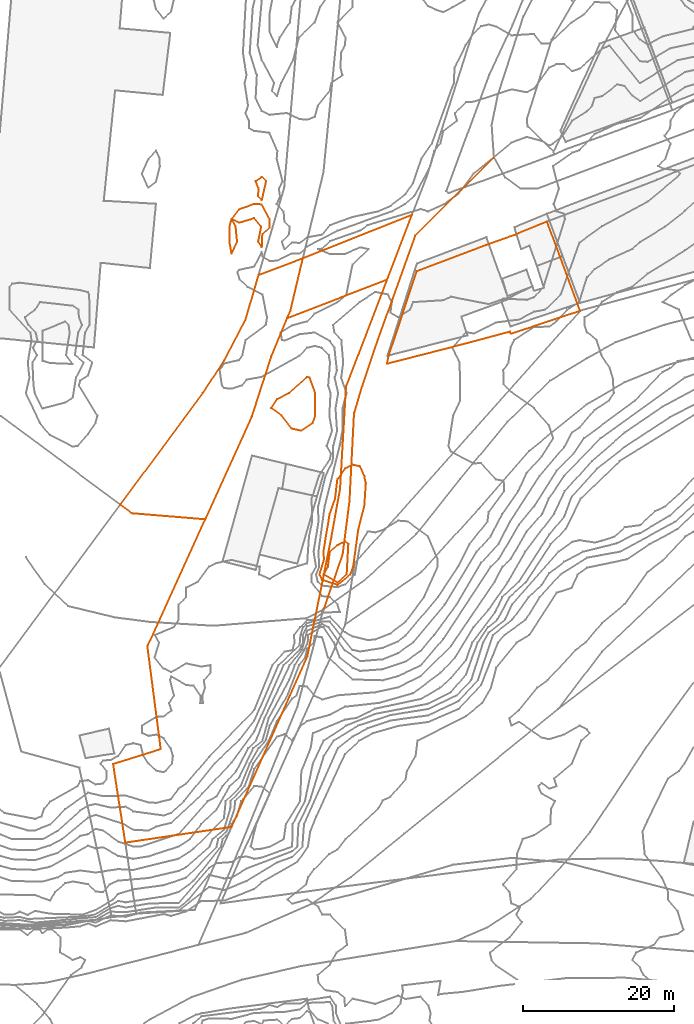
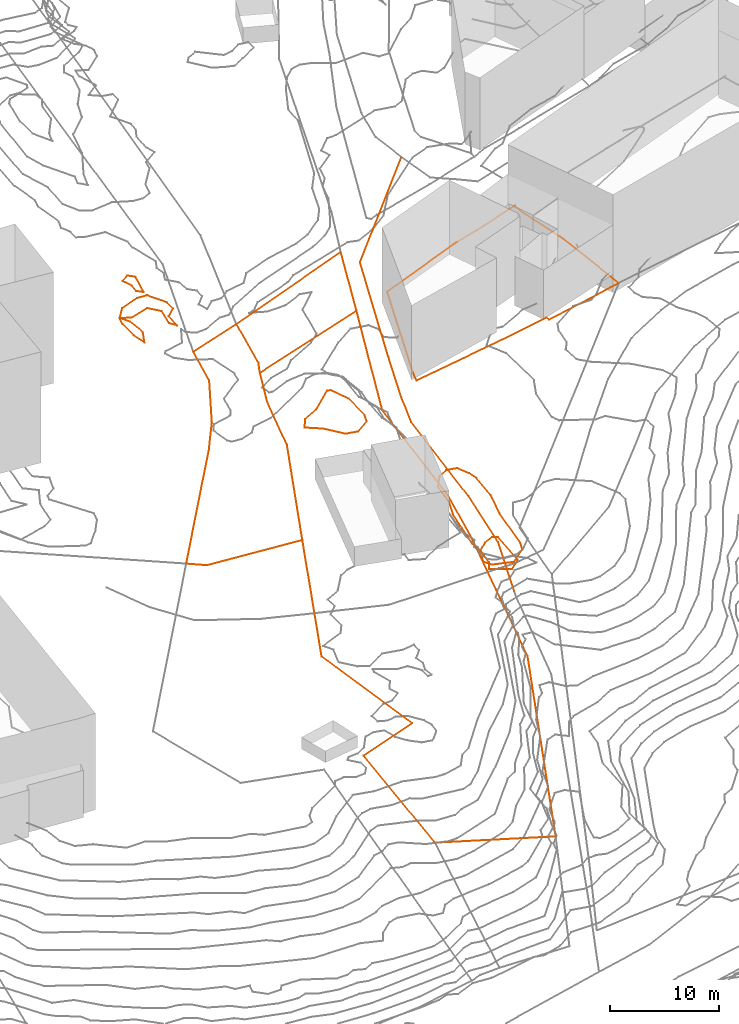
# Not in any storey, part 277 of 419: 11 proxies.
"""IFC2X3 model written with IfcOpenShell, lengths in metres."""

from ifc_helpers import new_model, entity, si_unit, frame, origin_with_axes, place, context, subcontext, project, element, save


model = new_model("IFC2X3")

# Units and contexts
model_context = context("Model", 3, precision=1e-05, world=origin_with_axes())
body_context = subcontext(model_context, "Body", "Model", "MODEL_VIEW")
ifc_project = project(units=[si_unit("AREAUNIT", "SQUARE_METRE"), si_unit("LENGTHUNIT", "METRE")], contexts=[model_context])

# Proxies
proxy_1_placement = place(None, frame((851.2920204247, 602.2976909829, 82.3), z_axis=(0.0, 0.0, 1.0), x_axis=(1.0, 0.0, 0.0)))
element("IfcBuildingElementProxy", 1, at=proxy_1_placement, Name="Route 316", ObjectType="NOTDEFINED", context=body_context, shape_type="GeometricCurveSet", body=[
    entity("IfcGeometricCurveSet", [entity("IfcPolyline", [entity("IfcCartesianPoint", [22.5, 59.7999999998, 4.7]), entity("IfcCartesianPoint", [12.1000000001, 49.3999999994, 2.8]), entity("IfcCartesianPoint", [7.1000000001, 35.5, 2.3]), entity("IfcCartesianPoint", [5.1000000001, 29.5999999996, 2.0]), entity("IfcCartesianPoint", [4.0, 25.8999999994, 1.9]), entity("IfcCartesianPoint", [3.4, 14.2999999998, 0.8]), entity("IfcCartesianPoint", [2.5, 7.2999999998, 0.2]), entity("IfcCartesianPoint", [0.0, 0.0, 0.0])])]),
])
proxy_2_placement = place(None, frame((859.6420204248, 634.7576909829, 83.3977964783), z_axis=(0.0, 0.0, 1.0), x_axis=(1.0, 0.0, 0.0)))
element("IfcBuildingElementProxy", 2, at=proxy_2_placement, Name="Cadastre 45", ObjectType="NOTDEFINED", context=body_context, shape_type="GeometricCurveSet", body=[
    entity("IfcGeometricCurveSet", [entity("IfcPolyline", [entity("IfcCartesianPoint", [0.0, 0.0, 0.0]), entity("IfcCartesianPoint", [0.22, 1.0499999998, 0.1646382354]), entity("IfcCartesianPoint", [3.9299999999, 12.2299999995, 1.1909255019]), entity("IfcCartesianPoint", [13.11, 15.7000000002, 1.3008746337]), entity("IfcCartesianPoint", [16.85, 17.04, 1.0642053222]), entity("IfcCartesianPoint", [21.1599999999, 18.8099999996, 0.7827192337]), entity("IfcCartesianPoint", [23.23, 13.25, -0.2353900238]), entity("IfcCartesianPoint", [25.5499999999, 6.9900000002, -2.2431958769]), entity("IfcCartesianPoint", [16.39, 3.96, -1.3018758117]), entity("IfcCartesianPoint", [16.27, 4.25, -1.186815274]), entity("IfcCartesianPoint", [10.6899999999, 2.7400000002, -0.8156592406]), entity("IfcCartesianPoint", [0.0, 0.0, 0.0])])]),
])
proxy_3_placement = place(None, frame((823.4420204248, 581.8176909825, 85.956908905), z_axis=(0.0, 0.0, 1.0), x_axis=(1.0, 0.0, 0.0)))
element("IfcBuildingElementProxy", 3, at=proxy_3_placement, Name="Cadastre 52", ObjectType="NOTDEFINED", context=body_context, shape_type="GeometricCurveSet", body=[
    entity("IfcGeometricCurveSet", [entity("IfcPolyline", [entity("IfcCartesianPoint", [1.6000000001, -10.3999999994, -4.0517901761]), entity("IfcCartesianPoint", [0.0, 0.0, 0.0]), entity("IfcCartesianPoint", [6.29, 1.9800000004, 0.2350088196]), entity("IfcCartesianPoint", [4.52, 15.5700000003, 0.1229650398]), entity("IfcCartesianPoint", [12.16, 32.3600000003, 0.3836127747]), entity("IfcCartesianPoint", [18.3100000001, 45.8600000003, 0.7573470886]), entity("IfcCartesianPoint", [20.89, 53.9100000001, -0.3018815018]), entity("IfcCartesianPoint", [22.99, 58.9500000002, -0.7277268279]), entity("IfcCartesianPoint", [36.2200000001, 64.0600000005, -1.4689651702]), entity("IfcCartesianPoint", [30.79, 49.9000000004, -2.1652622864]), entity("IfcCartesianPoint", [30.0, 36.3799999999, -3.3005075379]), entity("IfcCartesianPoint", [28.8500000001, 30.0300000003, -3.8357575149]), entity("IfcCartesianPoint", [25.6800000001, 14.2599999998, -6.4440541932]), entity("IfcCartesianPoint", [15.64, -8.3199999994, -9.5220107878]), entity("IfcCartesianPoint", [1.6000000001, -10.3999999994, -4.0517901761])])]),
])
proxy_4_placement = place(None, frame((824.3620204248, 616.1176909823, 86.4333117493), z_axis=(0.0, 0.0, 1.0), x_axis=(1.0, 0.0, 0.0)))
element("IfcBuildingElementProxy", 4, at=proxy_4_placement, Name="Cadastre 53", ObjectType="NOTDEFINED", context=body_context, shape_type="GeometricCurveSet", body=[
    entity("IfcGeometricCurveSet", [entity("IfcPolyline", [entity("IfcCartesianPoint", [24.15, 32.5700000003, -1.2331708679]), entity("IfcCartesianPoint", [22.51, 25.6900000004, -0.8214730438]), entity("IfcCartesianPoint", [22.0699999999, 24.6500000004, -1.2041296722]), entity("IfcCartesianPoint", [19.97, 19.6100000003, -0.778284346]), entity("IfcCartesianPoint", [17.39, 11.5600000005, 0.2809442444]), entity("IfcCartesianPoint", [11.24, -1.9399999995, -0.0927900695]), entity("IfcCartesianPoint", [1.53, -1.1399999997, -0.0294524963]), entity("IfcCartesianPoint", [0.0, 0.0, 0.0]), entity("IfcCartesianPoint", [10.92, 14.7400000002, 0.0911693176]), entity("IfcCartesianPoint", [13.74, 19.0700000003, -0.4795434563]), entity("IfcCartesianPoint", [16.5699999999, 24.46, -0.0357713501]), entity("IfcCartesianPoint", [18.29, 30.3700000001, -0.9857559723]), entity("IfcCartesianPoint", [24.15, 32.5700000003, -1.2331708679])])]),
])
proxy_5_placement = place(None, frame((846.4320204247, 640.7676909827, 85.2291820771), z_axis=(0.0, 0.0, 1.0), x_axis=(1.0, 0.0, 0.0)))
element("IfcBuildingElementProxy", 5, at=proxy_5_placement, Name="Cadastre 54", ObjectType="NOTDEFINED", context=body_context, shape_type="GeometricCurveSet", body=[
    entity("IfcGeometricCurveSet", [entity("IfcPolyline", [entity("IfcCartesianPoint", [2.0800000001, 7.9199999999, -0.0290411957]), entity("IfcCartesianPoint", [16.51, 13.6799999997, -0.4794824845]), entity("IfcCartesianPoint", [13.2300000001, 5.1100000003, -0.7412383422]), entity("IfcCartesianPoint", [0.0, 0.0, 0.0]), entity("IfcCartesianPoint", [0.4400000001, 1.04, 0.3826566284]), entity("IfcCartesianPoint", [2.0800000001, 7.9199999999, -0.0290411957])])]),
])
proxy_6_placement = place(None, frame((842.2920509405, 658.8976909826, 86.0), z_axis=(0.0, 0.0, 1.0), x_axis=(1.0, 0.0, 0.0)))
element("IfcBuildingElementProxy", 6, at=proxy_6_placement, Name="Contour 86.0 m", ObjectType="NOTDEFINED", context=body_context, shape_type="GeometricCurveSet", body=[
    entity("IfcGeometricCurveSet", [entity("IfcPolyline", [entity("IfcCartesianPoint", [0.7999694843, -2.4999500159, 0.0]), entity("IfcCartesianPoint", [1.371413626, 0.0, 0.0]), entity("IfcCartesianPoint", [0.7999694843, 0.5714441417, 0.0]), entity("IfcCartesianPoint", [0.0, 0.0, 0.0]), entity("IfcCartesianPoint", [0.371413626, -1.0, 0.0]), entity("IfcCartesianPoint", [0.3000194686, -2.0, 0.0]), entity("IfcCartesianPoint", [0.7999694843, -2.4999500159, 0.0])])]),
])
proxy_7_placement = place(None, frame((839.0920404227, 653.8976909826, 86.0), z_axis=(0.0, 0.0, 1.0), x_axis=(1.0, 0.0, 0.0)))
element("IfcBuildingElementProxy", 7, at=proxy_7_placement, Name="Contour 86.0 m", ObjectType="NOTDEFINED", context=body_context, shape_type="GeometricCurveSet", body=[
    entity("IfcGeometricCurveSet", [entity("IfcPolyline", [entity("IfcCartesianPoint", [3.9999800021, -3.6922941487, 0.0]), entity("IfcCartesianPoint", [4.0769166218, -2.0, 0.0]), entity("IfcCartesianPoint", [4.9999800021, -1.142833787, 0.0]), entity("IfcCartesianPoint", [5.0333078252, 0.0, 0.0]), entity("IfcCartesianPoint", [3.9999800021, 1.9090719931, 0.0]), entity("IfcCartesianPoint", [2.9999800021, 1.9999875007, 0.0]), entity("IfcCartesianPoint", [0.9999800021, 1.2727146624, 0.0]), entity("IfcCartesianPoint", [0.0, 0.0, 0.0]), entity("IfcCartesianPoint", [0.9999800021, -0.4999900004, 0.0]), entity("IfcCartesianPoint", [2.9999800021, 0.1111299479, 0.0]), entity("IfcCartesianPoint", [3.9090519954, -1.0, 0.0]), entity("IfcCartesianPoint", [3.5263021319, -3.0, 0.0]), entity("IfcCartesianPoint", [3.9999800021, -3.6922941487, 0.0])])]),
])
proxy_8_placement = place(None, frame((838.8161529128, 650.8976909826, 86.0), z_axis=(0.0, 0.0, 1.0), x_axis=(1.0, 0.0, 0.0)))
element("IfcBuildingElementProxy", 8, at=proxy_8_placement, Name="Contour 86.0 m", ObjectType="NOTDEFINED", context=body_context, shape_type="GeometricCurveSet", body=[
    entity("IfcGeometricCurveSet", [entity("IfcPolyline", [entity("IfcCartesianPoint", [0.275867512, -1.5555649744, 0.0]), entity("IfcCartesianPoint", [1.0031528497, 0.0, 0.0]), entity("IfcCartesianPoint", [0.8212968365, 2.0, 0.0]), entity("IfcCartesianPoint", [0.275867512, 2.9999833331, 0.0]), entity("IfcCartesianPoint", [0.0031528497, 2.0, 0.0]), entity("IfcCartesianPoint", [0.0, 0.0, 0.0]), entity("IfcCartesianPoint", [0.275867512, -1.5555649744, 0.0])])]),
])
proxy_9_placement = place(None, frame((844.3301225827, 628.8976909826, 87.0), z_axis=(0.0, 0.0, 1.0), x_axis=(1.0, 0.0, 0.0)))
element("IfcBuildingElementProxy", 9, at=proxy_9_placement, Name="Contour 87.0 m", ObjectType="NOTDEFINED", context=body_context, shape_type="GeometricCurveSet", body=[
    entity("IfcGeometricCurveSet", [entity("IfcPolyline", [entity("IfcCartesianPoint", [3.9618876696, -3.0, 0.0]), entity("IfcCartesianPoint", [2.7618978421, -2.75, 0.0]), entity("IfcCartesianPoint", [1.3982551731, -1.0, 0.0]), entity("IfcCartesianPoint", [0.0, 0.0, 0.0]), entity("IfcCartesianPoint", [0.7618978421, 1.1666719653, 0.0]), entity("IfcCartesianPoint", [2.3869038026, 2.0, 0.0]), entity("IfcCartesianPoint", [4.7618978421, 4.1052483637, 0.0]), entity("IfcCartesianPoint", [5.0951887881, 4.0, 0.0]), entity("IfcCartesianPoint", [5.83085338, 2.0, 0.0]), entity("IfcCartesianPoint", [5.8257248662, -1.0, 0.0]), entity("IfcCartesianPoint", [5.4761939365, -2.0, 0.0]), entity("IfcCartesianPoint", [3.9618876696, -3.0, 0.0])])]),
])
proxy_10_placement = place(None, frame((851.285004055, 606.8976909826, 82.0), z_axis=(0.0, 0.0, 1.0), x_axis=(1.0, 0.0, 0.0)))
element("IfcBuildingElementProxy", 10, at=proxy_10_placement, Name="Contour 82.0 m", ObjectType="NOTDEFINED", context=body_context, shape_type="GeometricCurveSet", body=[
    entity("IfcGeometricCurveSet", [entity("IfcPolyline", [entity("IfcCartesianPoint", [1.8070163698, -1.0807459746, 0.0]), entity("IfcCartesianPoint", [3.0318969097, 0.0, 0.0]), entity("IfcCartesianPoint", [3.2514513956, 4.0, 0.0]), entity("IfcCartesianPoint", [2.8070163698, 4.333333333, 0.0]), entity("IfcCartesianPoint", [1.8070163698, 3.8888700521, 0.0]), entity("IfcCartesianPoint", [0.8070163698, 2.9999958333, 0.0]), entity("IfcCartesianPoint", [0.5388993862, 1.0, 0.0]), entity("IfcCartesianPoint", [0.0, 0.0, 0.0]), entity("IfcCartesianPoint", [1.8070163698, -1.0807459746, 0.0])])]),
])
proxy_11_placement = place(None, frame((850.7067388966, 606.8976909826, 83.0), z_axis=(0.0, 0.0, 1.0), x_axis=(1.0, 0.0, 0.0)))
element("IfcBuildingElementProxy", 11, at=proxy_11_placement, Name="Contour 83.0 m", ObjectType="NOTDEFINED", context=body_context, shape_type="GeometricCurveSet", body=[
    entity("IfcGeometricCurveSet", [entity("IfcPolyline", [entity("IfcCartesianPoint", [2.3852815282, -1.3913048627, 0.0]), entity("IfcCartesianPoint", [4.0886300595, 0.0, 0.0]), entity("IfcCartesianPoint", [4.4673344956, 1.0, 0.0]), entity("IfcCartesianPoint", [5.1494319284, 6.0, 0.0]), entity("IfcCartesianPoint", [5.9319530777, 9.0, 0.0]), entity("IfcCartesianPoint", [6.1428530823, 12.0, 0.0]), entity("IfcCartesianPoint", [5.9452790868, 13.0, 0.0]), entity("IfcCartesianPoint", [5.3852815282, 14.285667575, 0.0]), entity("IfcCartesianPoint", [4.3852815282, 14.4999916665, 0.0]), entity("IfcCartesianPoint", [3.3852815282, 13.9999900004, 0.0]), entity("IfcCartesianPoint", [2.3852815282, 12.5714441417, 0.0]), entity("IfcCartesianPoint", [2.0694903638, 10.0, 0.0]), entity("IfcCartesianPoint", [1.3547464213, 8.0, 0.0]), entity("IfcCartesianPoint", [0.5378241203, 3.0, 0.0]), entity("IfcCartesianPoint", [0.6245453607, 2.0, 0.0]), entity("IfcCartesianPoint", [0.0, 0.0, 0.0]), entity("IfcCartesianPoint", [0.3852815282, -0.7355372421, 0.0]), entity("IfcCartesianPoint", [2.3852815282, -1.3913048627, 0.0])])]),
])

save(model, "model.ifc")
